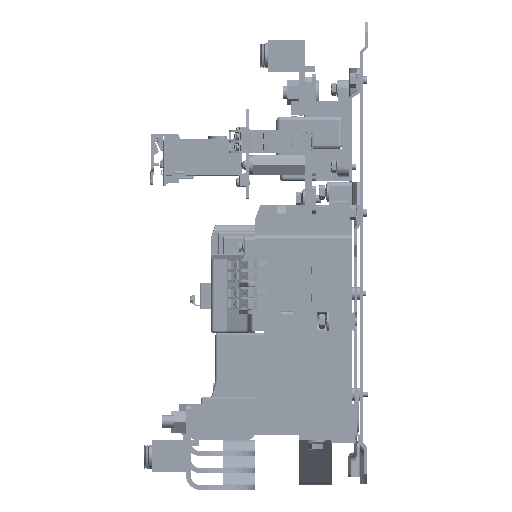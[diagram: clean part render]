
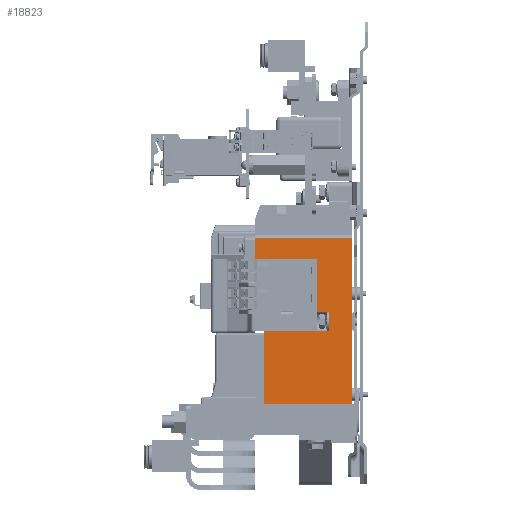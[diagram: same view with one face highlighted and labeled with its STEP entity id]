
A CAD part, left-side view. The second image highlights one B-rep face of the part: STEP entity #18823.
In plain terms, the highlighted planar face has unit normal (-1, 0, 0).
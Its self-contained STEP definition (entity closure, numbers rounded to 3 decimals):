
#14346=DIRECTION('',(0.,0.,1.));
#14347=VECTOR('',#14346,162.475);
#14348=CARTESIAN_POINT('',(-76.2,0.,-161.612));
#14349=LINE('',#14348,#14347);
#15049=DIRECTION('',(0.,0.,1.));
#15050=VECTOR('',#15049,20.256);
#15051=CARTESIAN_POINT('',(-76.2,94.971,-19.392));
#15052=LINE('',#15051,#15050);
#15278=DIRECTION('',(0.,-1.,0.));
#15279=VECTOR('',#15278,11.5);
#15280=CARTESIAN_POINT('',(-76.2,70.,-90.602));
#15281=LINE('',#15280,#15279);
#15282=DIRECTION('',(0.,-1.,0.));
#15283=VECTOR('',#15282,35.894);
#15284=CARTESIAN_POINT('',(-76.2,58.5,-90.602));
#15285=LINE('',#15284,#15283);
#15286=DIRECTION('',(0.,0.,-1.));
#15287=VECTOR('',#15286,19.304);
#15288=CARTESIAN_POINT('',(-76.2,22.606,-71.298));
#15289=LINE('',#15288,#15287);
#15290=DIRECTION('',(0.,-1.,0.));
#15291=VECTOR('',#15290,12.365);
#15292=CARTESIAN_POINT('',(-76.2,34.971,-71.298));
#15293=LINE('',#15292,#15291);
#15294=DIRECTION('',(0.,0.,-1.));
#15295=VECTOR('',#15294,51.905);
#15296=CARTESIAN_POINT('',(-76.2,34.971,-19.392));
#15297=LINE('',#15296,#15295);
#15298=DIRECTION('',(0.,-1.,0.));
#15299=VECTOR('',#15298,60.);
#15300=CARTESIAN_POINT('',(-76.2,94.971,-19.392));
#15301=LINE('',#15300,#15299);
#15302=DIRECTION('',(0.,1.,0.));
#15303=VECTOR('',#15302,86.971);
#15304=CARTESIAN_POINT('',(-76.2,0.,-161.612));
#15305=LINE('',#15304,#15303);
#15306=DIRECTION('',(0.,0.,1.));
#15307=VECTOR('',#15306,71.01);
#15308=CARTESIAN_POINT('',(-76.2,86.971,-161.612));
#15309=LINE('',#15308,#15307);
#15310=DIRECTION('',(0.,-1.,0.));
#15311=VECTOR('',#15310,16.971);
#15312=CARTESIAN_POINT('',(-76.2,86.971,-90.602));
#15313=LINE('',#15312,#15311);
#15597=DIRECTION('',(0.,1.,0.));
#15598=VECTOR('',#15597,94.971);
#15599=CARTESIAN_POINT('',(-76.2,0.,0.864));
#15600=LINE('',#15599,#15598);
#17199=CARTESIAN_POINT('',(-76.2,22.606,-71.298));
#17200=CARTESIAN_POINT('',(-76.2,22.606,-90.602));
#17201=VERTEX_POINT('',#17199);
#17202=VERTEX_POINT('',#17200);
#17259=CARTESIAN_POINT('',(-76.2,0.,0.864));
#17260=CARTESIAN_POINT('',(-76.2,94.971,0.864));
#17261=VERTEX_POINT('',#17259);
#17262=VERTEX_POINT('',#17260);
#17375=CARTESIAN_POINT('',(-76.2,94.971,-19.392));
#17377=VERTEX_POINT('',#17375);
#17381=CARTESIAN_POINT('',(-76.2,34.971,-19.392));
#17382=CARTESIAN_POINT('',(-76.2,34.971,-71.298));
#17383=VERTEX_POINT('',#17381);
#17384=VERTEX_POINT('',#17382);
#17403=CARTESIAN_POINT('',(-76.2,86.971,-90.602));
#17404=VERTEX_POINT('',#17403);
#17447=CARTESIAN_POINT('',(-76.2,0.,-161.612));
#17449=VERTEX_POINT('',#17447);
#17451=CARTESIAN_POINT('',(-76.2,86.971,-161.612));
#17452=VERTEX_POINT('',#17451);
#17479=CARTESIAN_POINT('',(-76.2,70.,-90.602));
#17480=CARTESIAN_POINT('',(-76.2,58.5,-90.602));
#17481=VERTEX_POINT('',#17479);
#17482=VERTEX_POINT('',#17480);
#18796=CARTESIAN_POINT('',(-76.2,0.,-167.031));
#18797=DIRECTION('',(-1.,0.,0.));
#18798=DIRECTION('',(0.,0.,1.));
#18799=AXIS2_PLACEMENT_3D('',#18796,#18797,#18798);
#18800=PLANE('',#18799);
#18802=ORIENTED_EDGE('',*,*,#18801,.T.);
#18804=ORIENTED_EDGE('',*,*,#18803,.T.);
#18806=ORIENTED_EDGE('',*,*,#18805,.F.);
#18808=ORIENTED_EDGE('',*,*,#18807,.F.);
#18810=ORIENTED_EDGE('',*,*,#18809,.F.);
#18812=ORIENTED_EDGE('',*,*,#18811,.F.);
#18813=ORIENTED_EDGE('',*,*,#18480,.T.);
#18815=ORIENTED_EDGE('',*,*,#18814,.F.);
#18816=ORIENTED_EDGE('',*,*,#17574,.F.);
#18817=ORIENTED_EDGE('',*,*,#18788,.T.);
#18818=ORIENTED_EDGE('',*,*,#18778,.T.);
#18820=ORIENTED_EDGE('',*,*,#18819,.T.);
#18821=EDGE_LOOP('',(#18802,#18804,#18806,#18808,#18810,#18812,#18813,#18815,
#18816,#18817,#18818,#18820));
#18822=FACE_OUTER_BOUND('',#18821,.F.);
#18823=ADVANCED_FACE('',(#18822),#18800,.T.);
#17574=EDGE_CURVE('',#17449,#17261,#14349,.T.);
#18480=EDGE_CURVE('',#17377,#17262,#15052,.T.);
#18778=EDGE_CURVE('',#17452,#17404,#15309,.T.);
#18788=EDGE_CURVE('',#17449,#17452,#15305,.T.);
#18801=EDGE_CURVE('',#17481,#17482,#15281,.T.);
#18803=EDGE_CURVE('',#17482,#17202,#15285,.T.);
#18805=EDGE_CURVE('',#17201,#17202,#15289,.T.);
#18807=EDGE_CURVE('',#17384,#17201,#15293,.T.);
#18809=EDGE_CURVE('',#17383,#17384,#15297,.T.);
#18811=EDGE_CURVE('',#17377,#17383,#15301,.T.);
#18814=EDGE_CURVE('',#17261,#17262,#15600,.T.);
#18819=EDGE_CURVE('',#17404,#17481,#15313,.T.);
